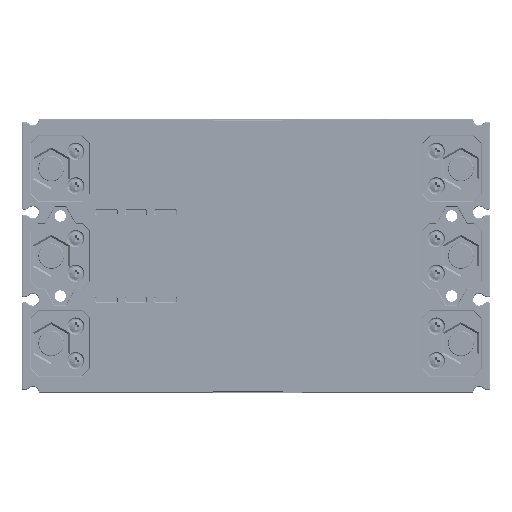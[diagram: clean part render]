
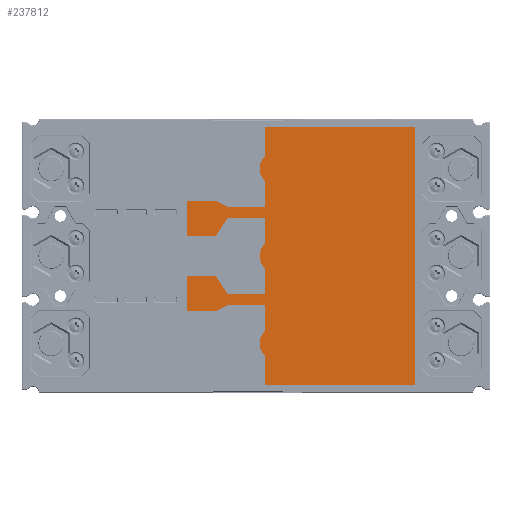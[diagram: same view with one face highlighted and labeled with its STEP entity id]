
A CAD part, front view. The second image highlights one B-rep face of the part: STEP entity #237812.
In plain terms, the highlighted planar face has unit normal (0, -1, 0) as drawn and (0, 0, 1) by its records, which use the part's own axes.
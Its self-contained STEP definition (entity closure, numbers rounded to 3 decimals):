
#237048=DIRECTION('',(0.,-1.,0.));
#237049=VECTOR('',#237048,82.5);
#237050=CARTESIAN_POINT('',(-71.,82.5,0.8));
#237051=LINE('',#237050,#237049);
#237052=DIRECTION('',(-1.,0.,0.));
#237053=VECTOR('',#237052,16.072);
#237054=CARTESIAN_POINT('',(-54.928,82.5,0.8));
#237055=LINE('',#237054,#237053);
#237064=DIRECTION('',(-1.,0.,0.));
#237065=VECTOR('',#237064,13.972);
#237066=CARTESIAN_POINT('',(-27.1,82.5,0.8));
#237067=LINE('',#237066,#237065);
#237076=DIRECTION('',(0.,-1.,0.));
#237077=VECTOR('',#237076,20.5);
#237078=CARTESIAN_POINT('',(-27.1,103.,0.8));
#237079=LINE('',#237078,#237077);
#237088=DIRECTION('',(0.,-1.,0.));
#237089=VECTOR('',#237088,16.);
#237090=CARTESIAN_POINT('',(-30.25,125.5,0.8));
#237091=LINE('',#237090,#237089);
#237096=DIRECTION('',(-1.,0.,0.));
#237097=VECTOR('',#237096,19.);
#237098=CARTESIAN_POINT('',(-11.25,125.5,0.8));
#237099=LINE('',#237098,#237097);
#237104=DIRECTION('',(0.,1.,0.));
#237105=VECTOR('',#237104,16.);
#237106=CARTESIAN_POINT('',(-11.25,109.5,0.8));
#237107=LINE('',#237106,#237105);
#237112=DIRECTION('',(0.,1.,0.));
#237113=VECTOR('',#237112,20.5);
#237114=CARTESIAN_POINT('',(-20.9,82.5,0.8));
#237115=LINE('',#237114,#237113);
#237120=DIRECTION('',(-1.,0.,0.));
#237121=VECTOR('',#237120,13.972);
#237122=CARTESIAN_POINT('',(-6.928,82.5,0.8));
#237123=LINE('',#237122,#237121);
#237132=DIRECTION('',(-1.,0.,0.));
#237133=VECTOR('',#237132,13.972);
#237134=CARTESIAN_POINT('',(20.9,82.5,0.8));
#237135=LINE('',#237134,#237133);
#237144=DIRECTION('',(0.,-1.,0.));
#237145=VECTOR('',#237144,20.5);
#237146=CARTESIAN_POINT('',(20.9,103.,0.8));
#237147=LINE('',#237146,#237145);
#237156=DIRECTION('',(0.,-1.,0.));
#237157=VECTOR('',#237156,16.);
#237158=CARTESIAN_POINT('',(11.25,125.5,0.8));
#237159=LINE('',#237158,#237157);
#237164=DIRECTION('',(-1.,0.,0.));
#237165=VECTOR('',#237164,19.);
#237166=CARTESIAN_POINT('',(30.25,125.5,0.8));
#237167=LINE('',#237166,#237165);
#237172=DIRECTION('',(0.,1.,0.));
#237173=VECTOR('',#237172,16.);
#237174=CARTESIAN_POINT('',(30.25,109.5,0.8));
#237175=LINE('',#237174,#237173);
#237180=DIRECTION('',(0.,1.,0.));
#237181=VECTOR('',#237180,20.5);
#237182=CARTESIAN_POINT('',(27.1,82.5,0.8));
#237183=LINE('',#237182,#237181);
#237188=DIRECTION('',(-1.,0.,0.));
#237189=VECTOR('',#237188,13.972);
#237190=CARTESIAN_POINT('',(41.072,82.5,0.8));
#237191=LINE('',#237190,#237189);
#237204=DIRECTION('',(-1.,0.,0.));
#237205=VECTOR('',#237204,16.072);
#237206=CARTESIAN_POINT('',(71.,82.5,0.8));
#237207=LINE('',#237206,#237205);
#237212=DIRECTION('',(0.,1.,0.));
#237213=VECTOR('',#237212,82.5);
#237214=CARTESIAN_POINT('',(71.,0.,0.8));
#237215=LINE('',#237214,#237213);
#237216=CARTESIAN_POINT('',(48.,76.,0.8));
#237217=DIRECTION('',(0.,0.,-1.));
#237218=DIRECTION('',(-0.729,0.684,0.));
#237219=AXIS2_PLACEMENT_3D('',#237216,#237217,#237218);
#237221=DIRECTION('',(-1.,0.,0.));
#237222=VECTOR('',#237221,142.);
#237223=CARTESIAN_POINT('',(71.,0.,0.8));
#237224=LINE('',#237223,#237222);
#237225=CARTESIAN_POINT('',(-48.,76.,0.8));
#237226=DIRECTION('',(0.,0.,-1.));
#237227=DIRECTION('',(-0.729,0.684,0.));
#237228=AXIS2_PLACEMENT_3D('',#237225,#237226,#237227);
#237230=DIRECTION('',(-0.436,0.9,0.));
#237231=VECTOR('',#237230,7.223);
#237232=CARTESIAN_POINT('',(-27.1,103.,0.8));
#237233=LINE('',#237232,#237231);
#237234=DIRECTION('',(-0.829,-0.559,0.));
#237235=VECTOR('',#237234,11.635);
#237236=CARTESIAN_POINT('',(-11.25,109.5,0.8));
#237237=LINE('',#237236,#237235);
#237238=CARTESIAN_POINT('',(0.,76.,0.8));
#237239=DIRECTION('',(0.,0.,-1.));
#237240=DIRECTION('',(-0.729,0.684,0.));
#237241=AXIS2_PLACEMENT_3D('',#237238,#237239,#237240);
#237243=DIRECTION('',(-0.829,0.559,0.));
#237244=VECTOR('',#237243,11.635);
#237245=CARTESIAN_POINT('',(20.9,103.,0.8));
#237246=LINE('',#237245,#237244);
#237247=DIRECTION('',(-0.436,-0.9,0.));
#237248=VECTOR('',#237247,7.223);
#237249=CARTESIAN_POINT('',(30.25,109.5,0.8));
#237250=LINE('',#237249,#237248);
#237303=CARTESIAN_POINT('',(-71.,0.,0.8));
#237304=VERTEX_POINT('',#237303);
#237305=CARTESIAN_POINT('',(71.,0.,0.8));
#237306=VERTEX_POINT('',#237305);
#237307=CARTESIAN_POINT('',(-71.,82.5,0.8));
#237308=VERTEX_POINT('',#237307);
#237309=CARTESIAN_POINT('',(-54.928,82.5,0.8));
#237310=VERTEX_POINT('',#237309);
#237311=CARTESIAN_POINT('',(-41.072,82.5,0.8));
#237312=VERTEX_POINT('',#237311);
#237313=CARTESIAN_POINT('',(-27.1,82.5,0.8));
#237314=VERTEX_POINT('',#237313);
#237315=CARTESIAN_POINT('',(-27.1,103.,0.8));
#237316=VERTEX_POINT('',#237315);
#237317=CARTESIAN_POINT('',(-30.25,109.5,0.8));
#237318=VERTEX_POINT('',#237317);
#237319=CARTESIAN_POINT('',(-30.25,125.5,0.8));
#237320=VERTEX_POINT('',#237319);
#237321=CARTESIAN_POINT('',(-11.25,125.5,0.8));
#237322=VERTEX_POINT('',#237321);
#237323=CARTESIAN_POINT('',(-11.25,109.5,0.8));
#237324=VERTEX_POINT('',#237323);
#237325=CARTESIAN_POINT('',(-20.9,103.,0.8));
#237326=VERTEX_POINT('',#237325);
#237327=CARTESIAN_POINT('',(-20.9,82.5,0.8));
#237328=VERTEX_POINT('',#237327);
#237329=CARTESIAN_POINT('',(-6.928,82.5,0.8));
#237330=VERTEX_POINT('',#237329);
#237331=CARTESIAN_POINT('',(6.928,82.5,0.8));
#237332=VERTEX_POINT('',#237331);
#237333=CARTESIAN_POINT('',(20.9,82.5,0.8));
#237334=VERTEX_POINT('',#237333);
#237335=CARTESIAN_POINT('',(20.9,103.,0.8));
#237336=VERTEX_POINT('',#237335);
#237337=CARTESIAN_POINT('',(11.25,109.5,0.8));
#237338=VERTEX_POINT('',#237337);
#237339=CARTESIAN_POINT('',(11.25,125.5,0.8));
#237340=VERTEX_POINT('',#237339);
#237341=CARTESIAN_POINT('',(30.25,125.5,0.8));
#237342=VERTEX_POINT('',#237341);
#237343=CARTESIAN_POINT('',(30.25,109.5,0.8));
#237344=VERTEX_POINT('',#237343);
#237345=CARTESIAN_POINT('',(27.1,103.,0.8));
#237346=VERTEX_POINT('',#237345);
#237347=CARTESIAN_POINT('',(27.1,82.5,0.8));
#237348=VERTEX_POINT('',#237347);
#237349=CARTESIAN_POINT('',(41.072,82.5,0.8));
#237350=VERTEX_POINT('',#237349);
#237351=CARTESIAN_POINT('',(54.928,82.5,0.8));
#237352=VERTEX_POINT('',#237351);
#237353=CARTESIAN_POINT('',(71.,82.5,0.8));
#237354=VERTEX_POINT('',#237353);
#237779=CARTESIAN_POINT('',(0.,0.,0.8));
#237780=DIRECTION('',(0.,0.,1.));
#237781=DIRECTION('',(1.,0.,0.));
#237782=AXIS2_PLACEMENT_3D('',#237779,#237780,#237781);
#237783=PLANE('',#237782);
#237784=ORIENTED_EDGE('',*,*,#237717,.F.);
#237785=ORIENTED_EDGE('',*,*,#237733,.F.);
#237786=ORIENTED_EDGE('',*,*,#237746,.T.);
#237787=ORIENTED_EDGE('',*,*,#237760,.F.);
#237788=ORIENTED_EDGE('',*,*,#237773,.F.);
#237789=ORIENTED_EDGE('',*,*,#237423,.T.);
#237790=ORIENTED_EDGE('',*,*,#237438,.F.);
#237791=ORIENTED_EDGE('',*,*,#237452,.F.);
#237792=ORIENTED_EDGE('',*,*,#237466,.T.);
#237793=ORIENTED_EDGE('',*,*,#237479,.F.);
#237794=ORIENTED_EDGE('',*,*,#237495,.F.);
#237795=ORIENTED_EDGE('',*,*,#237508,.T.);
#237796=ORIENTED_EDGE('',*,*,#237522,.F.);
#237797=ORIENTED_EDGE('',*,*,#237536,.F.);
#237798=ORIENTED_EDGE('',*,*,#237550,.F.);
#237799=ORIENTED_EDGE('',*,*,#237564,.T.);
#237800=ORIENTED_EDGE('',*,*,#237577,.F.);
#237801=ORIENTED_EDGE('',*,*,#237593,.F.);
#237802=ORIENTED_EDGE('',*,*,#237606,.T.);
#237803=ORIENTED_EDGE('',*,*,#237619,.F.);
#237804=ORIENTED_EDGE('',*,*,#237635,.F.);
#237805=ORIENTED_EDGE('',*,*,#237648,.T.);
#237806=ORIENTED_EDGE('',*,*,#237662,.F.);
#237807=ORIENTED_EDGE('',*,*,#237676,.F.);
#237808=ORIENTED_EDGE('',*,*,#237690,.F.);
#237809=ORIENTED_EDGE('',*,*,#237704,.T.);
#237810=EDGE_LOOP('',(#237784,#237785,#237786,#237787,#237788,#237789,#237790,
#237791,#237792,#237793,#237794,#237795,#237796,#237797,#237798,#237799,#237800,
#237801,#237802,#237803,#237804,#237805,#237806,#237807,#237808,#237809));
#237811=FACE_OUTER_BOUND('',#237810,.F.);
#237812=ADVANCED_FACE('',(#237811),#237783,.T.);
#237220=CIRCLE('',#237219,9.5);
#237229=CIRCLE('',#237228,9.5);
#237242=CIRCLE('',#237241,9.5);
#237423=EDGE_CURVE('',#237306,#237304,#237224,.T.);
#237438=EDGE_CURVE('',#237308,#237304,#237051,.T.);
#237452=EDGE_CURVE('',#237310,#237308,#237055,.T.);
#237466=EDGE_CURVE('',#237310,#237312,#237229,.T.);
#237479=EDGE_CURVE('',#237314,#237312,#237067,.T.);
#237495=EDGE_CURVE('',#237316,#237314,#237079,.T.);
#237508=EDGE_CURVE('',#237316,#237318,#237233,.T.);
#237522=EDGE_CURVE('',#237320,#237318,#237091,.T.);
#237536=EDGE_CURVE('',#237322,#237320,#237099,.T.);
#237550=EDGE_CURVE('',#237324,#237322,#237107,.T.);
#237564=EDGE_CURVE('',#237324,#237326,#237237,.T.);
#237577=EDGE_CURVE('',#237328,#237326,#237115,.T.);
#237593=EDGE_CURVE('',#237330,#237328,#237123,.T.);
#237606=EDGE_CURVE('',#237330,#237332,#237242,.T.);
#237619=EDGE_CURVE('',#237334,#237332,#237135,.T.);
#237635=EDGE_CURVE('',#237336,#237334,#237147,.T.);
#237648=EDGE_CURVE('',#237336,#237338,#237246,.T.);
#237662=EDGE_CURVE('',#237340,#237338,#237159,.T.);
#237676=EDGE_CURVE('',#237342,#237340,#237167,.T.);
#237690=EDGE_CURVE('',#237344,#237342,#237175,.T.);
#237704=EDGE_CURVE('',#237344,#237346,#237250,.T.);
#237717=EDGE_CURVE('',#237348,#237346,#237183,.T.);
#237733=EDGE_CURVE('',#237350,#237348,#237191,.T.);
#237746=EDGE_CURVE('',#237350,#237352,#237220,.T.);
#237760=EDGE_CURVE('',#237354,#237352,#237207,.T.);
#237773=EDGE_CURVE('',#237306,#237354,#237215,.T.);
